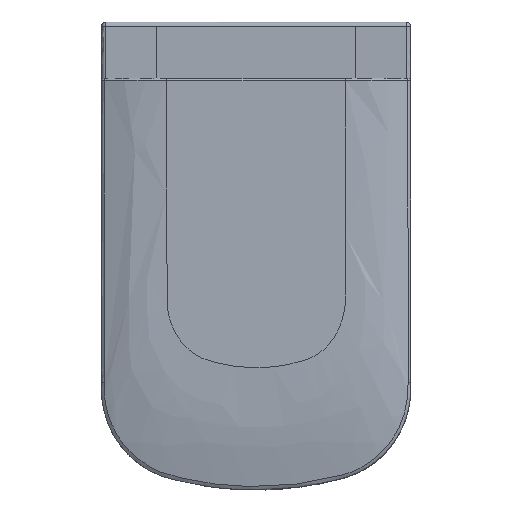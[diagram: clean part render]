
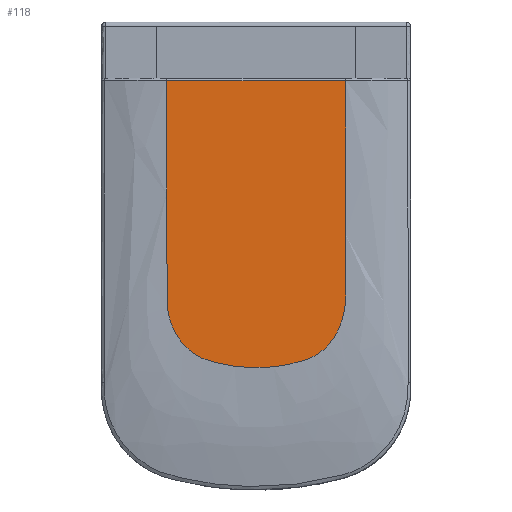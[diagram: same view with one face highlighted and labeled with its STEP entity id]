
A CAD part, top view. The second image highlights one B-rep face of the part: STEP entity #118.
In plain terms, the highlighted planar face has unit normal (0, 0, 1).
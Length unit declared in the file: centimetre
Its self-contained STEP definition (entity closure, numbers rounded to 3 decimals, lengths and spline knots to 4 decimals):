
#118=ADVANCED_FACE('',(#151),#674,.T.);
#151=FACE_OUTER_BOUND('',#184,.T.);
#184=EDGE_LOOP('',(#283,#284));
#283=ORIENTED_EDGE('',*,*,#418,.T.);
#284=ORIENTED_EDGE('',*,*,#415,.F.);
#415=EDGE_CURVE('',#642,#641,#458,.T.);
#418=EDGE_CURVE('',#642,#641,#545,.T.);
#458=B_SPLINE_CURVE_WITH_KNOTS('',3,(#4040,#4041,#4042,#4043,#4044,#4045,
#4046,#4047,#4048,#4049,#4050,#4051,#4052,#4053,#4054,#4055,#4056,#4057,
#4058,#4059,#4060,#4061,#4062,#4063,#4064,#4065,#4066,#4067,#4068,#4069,
#4070,#4071,#4072,#4073,#4074,#4075,#4076,#4077,#4078,#4079,#4080,#4081,
#4082,#4083,#4084),.UNSPECIFIED.,.F.,.F.,(4,2,2,2,2,2,2,2,2,2,1,1,1,2,2,
2,2,2,2,2,2,2,2,4),(0.3727,24.5754,27.6473,
29.1833,30.7193,33.7912,36.8631,39.935,
41.471,43.007,46.0789,49.1508,52.2228,
55.2947,56.8306,58.3666,61.4385,64.5105,
66.0464,67.5824,69.1184,70.6543,73.7262,
97.9291),.UNSPECIFIED.);
#545=(
BOUNDED_CURVE()
B_SPLINE_CURVE(3,(#4099,#4100,#4101,#4102),.UNSPECIFIED.,.F.,.F.)
B_SPLINE_CURVE_WITH_KNOTS((4,4),(0.,20.2584),.UNSPECIFIED.)
CURVE()
GEOMETRIC_REPRESENTATION_ITEM()
RATIONAL_B_SPLINE_CURVE((1.,1.,1.,1.))
REPRESENTATION_ITEM('')
);
#641=VERTEX_POINT('',#3975);
#642=VERTEX_POINT('',#3976);
#674=PLANE('',#699);
#699=AXIS2_PLACEMENT_3D('',#3550,#707,$);
#707=DIRECTION('',(0.,0.,1.));
#3550=CARTESIAN_POINT('',(39.2267,-6.3567,7.8883));
#3975=CARTESIAN_POINT('',(39.2267,-6.6567,7.8883));
#3976=CARTESIAN_POINT('',(59.4851,-6.6567,7.8883));
#4040=CARTESIAN_POINT('',(59.4851,-6.6567,7.8883));
#4041=CARTESIAN_POINT('',(59.4851,-13.1505,7.8883));
#4042=CARTESIAN_POINT('',(59.4851,-19.6075,7.8883));
#4043=CARTESIAN_POINT('',(59.4851,-26.9286,7.8883));
#4044=CARTESIAN_POINT('',(59.4851,-27.7487,7.8883));
#4045=CARTESIAN_POINT('',(59.4852,-28.9793,7.8883));
#4046=CARTESIAN_POINT('',(59.485,-29.3915,7.8883));
#4047=CARTESIAN_POINT('',(59.4856,-30.2116,7.8883));
#4048=CARTESIAN_POINT('',(59.4836,-30.623,7.8883));
#4049=CARTESIAN_POINT('',(59.4937,-31.8602,7.8883));
#4050=CARTESIAN_POINT('',(59.3945,-32.6831,7.8883));
#4051=CARTESIAN_POINT('',(58.9596,-34.2687,7.8883));
#4052=CARTESIAN_POINT('',(58.6268,-35.0317,7.8883));
#4053=CARTESIAN_POINT('',(57.7255,-36.4111,7.8883));
#4054=CARTESIAN_POINT('',(57.1495,-37.0297,7.8883));
#4055=CARTESIAN_POINT('',(56.1476,-37.7348,7.8883));
#4056=CARTESIAN_POINT('',(55.7837,-37.9392,7.8883));
#4057=CARTESIAN_POINT('',(55.0258,-38.2506,7.8883));
#4058=CARTESIAN_POINT('',(54.626,-38.3646,7.8883));
#4059=CARTESIAN_POINT('',(53.4417,-38.6996,7.8883));
#4060=CARTESIAN_POINT('',(51.8295,-39.036,7.8883));
#4061=CARTESIAN_POINT('',(49.3552,-39.2085,7.8883));
#4062=CARTESIAN_POINT('',(46.8851,-39.0361,7.8883));
#4063=CARTESIAN_POINT('',(45.2767,-38.7011,7.8883));
#4064=CARTESIAN_POINT('',(44.0901,-38.3659,7.8883));
#4065=CARTESIAN_POINT('',(43.6905,-38.2521,7.8883));
#4066=CARTESIAN_POINT('',(42.9304,-37.9402,7.8883));
#4067=CARTESIAN_POINT('',(42.5692,-37.7384,7.8883));
#4068=CARTESIAN_POINT('',(41.5533,-37.0218,7.8883));
#4069=CARTESIAN_POINT('',(40.9911,-36.4147,7.8883));
#4070=CARTESIAN_POINT('',(40.088,-35.0387,7.8883));
#4071=CARTESIAN_POINT('',(39.7523,-34.2688,7.8883));
#4072=CARTESIAN_POINT('',(39.4282,-33.087,7.8883));
#4073=CARTESIAN_POINT('',(39.3478,-32.6813,7.8883));
#4074=CARTESIAN_POINT('',(39.2444,-31.8656,7.8883));
#4075=CARTESIAN_POINT('',(39.2234,-31.4529,7.8883));
#4076=CARTESIAN_POINT('',(39.2277,-30.62,7.8883));
#4077=CARTESIAN_POINT('',(39.2264,-30.2239,7.8883));
#4078=CARTESIAN_POINT('',(39.2268,-29.3936,7.8883));
#4079=CARTESIAN_POINT('',(39.2267,-28.9814,7.8883));
#4080=CARTESIAN_POINT('',(39.2267,-27.7474,7.8883));
#4081=CARTESIAN_POINT('',(39.2267,-26.9274,7.8883));
#4082=CARTESIAN_POINT('',(39.2267,-19.6036,7.8883));
#4083=CARTESIAN_POINT('',(39.2267,-13.1527,7.8883));
#4084=CARTESIAN_POINT('',(39.2267,-6.6567,7.8883));
#4099=CARTESIAN_POINT('',(59.4851,-6.6567,7.8883));
#4100=CARTESIAN_POINT('',(52.7323,-6.6567,7.8883));
#4101=CARTESIAN_POINT('',(45.9795,-6.6567,7.8883));
#4102=CARTESIAN_POINT('',(39.2267,-6.6567,7.8883));
